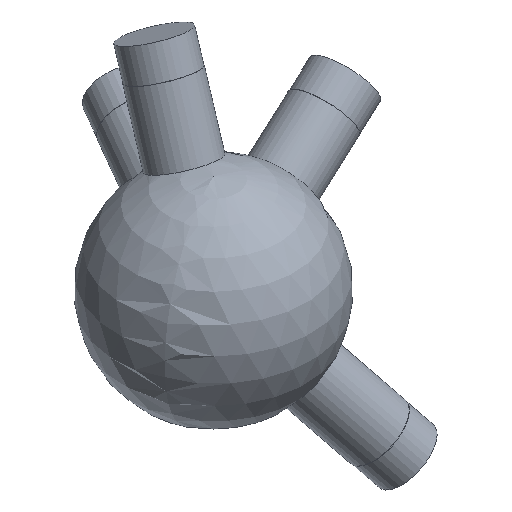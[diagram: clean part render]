
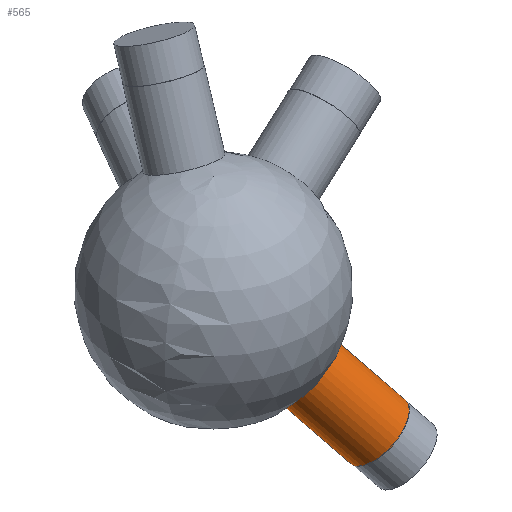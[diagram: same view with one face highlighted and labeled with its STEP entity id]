
A CAD part, isometric view. The second image highlights one B-rep face of the part: STEP entity #565.
In plain terms, the highlighted cylindrical face has radius 6 mm (diameter 12 mm), a full revolution.
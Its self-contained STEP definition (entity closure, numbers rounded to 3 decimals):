
#33 = SPHERICAL_SURFACE('',#34,20.);
#34 = AXIS2_PLACEMENT_3D('',#35,#36,#37);
#35 = CARTESIAN_POINT('',(0.,0.,0.));
#36 = DIRECTION('',(0.,0.,1.));
#37 = DIRECTION('',(1.,0.,-0.));
#204 = EDGE_CURVE('',#205,#205,#207,.T.);
#205 = VERTEX_POINT('',#206);
#206 = CARTESIAN_POINT('',(4.779,-8.316,
    -17.55));
#207 = SURFACE_CURVE('',#208,(#213,#289),.PCURVE_S1.);
#208 = CIRCLE('',#209,6.);
#209 = AXIS2_PLACEMENT_3D('',#210,#211,#212);
#210 = CARTESIAN_POINT('',(9.725,-8.316,
    -14.152));
#211 = DIRECTION('',(0.51,-0.436,-0.742));
#212 = DIRECTION('',(0.824,0.,0.566));
#213 = PCURVE('',#33,#214);
#214 = DEFINITIONAL_REPRESENTATION('',(#215),#288);
#215 = B_SPLINE_CURVE_WITH_KNOTS('',8,(#216,#217,#218,#219,#220,#221,
    #222,#223,#224,#225,#226,#227,#228,#229,#230,#231,#232,#233,#234,
    #235,#236,#237,#238,#239,#240,#241,#242,#243,#244,#245,#246,#247,
    #248,#249,#250,#251,#252,#253,#254,#255,#256,#257,#258,#259,#260,
    #261,#262,#263,#264,#265,#266,#267,#268,#269,#270,#271,#272,#273,
    #274,#275,#276,#277,#278,#279,#280,#281,#282,#283,#284,#285,#286,
    #287),.UNSPECIFIED.,.T.,.F.,(9,7,7,7,7,7,7,7,7,7,9),(3.142,
    3.534,3.902,4.248,4.895,
    5.461,6.452,7.938,8.682,
    9.053,9.425),.UNSPECIFIED.);
#216 = CARTESIAN_POINT('',(5.234,-1.071));
#217 = CARTESIAN_POINT('',(5.254,-1.082));
#218 = CARTESIAN_POINT('',(5.277,-1.092));
#219 = CARTESIAN_POINT('',(5.302,-1.101));
#220 = CARTESIAN_POINT('',(5.328,-1.11));
#221 = CARTESIAN_POINT('',(5.357,-1.118));
#222 = CARTESIAN_POINT('',(5.388,-1.124));
#223 = CARTESIAN_POINT('',(5.42,-1.129));
#224 = CARTESIAN_POINT('',(5.485,-1.137));
#225 = CARTESIAN_POINT('',(5.518,-1.14));
#226 = CARTESIAN_POINT('',(5.551,-1.141));
#227 = CARTESIAN_POINT('',(5.584,-1.142));
#228 = CARTESIAN_POINT('',(5.617,-1.141));
#229 = CARTESIAN_POINT('',(5.65,-1.139));
#230 = CARTESIAN_POINT('',(5.682,-1.136));
#231 = CARTESIAN_POINT('',(5.742,-1.127));
#232 = CARTESIAN_POINT('',(5.77,-1.122));
#233 = CARTESIAN_POINT('',(5.797,-1.117));
#234 = CARTESIAN_POINT('',(5.822,-1.11));
#235 = CARTESIAN_POINT('',(5.846,-1.102));
#236 = CARTESIAN_POINT('',(5.868,-1.094));
#237 = CARTESIAN_POINT('',(5.888,-1.085));
#238 = CARTESIAN_POINT('',(5.942,-1.058));
#239 = CARTESIAN_POINT('',(5.971,-1.039));
#240 = CARTESIAN_POINT('',(5.995,-1.017));
#241 = CARTESIAN_POINT('',(6.012,-0.995));
#242 = CARTESIAN_POINT('',(6.025,-0.971));
#243 = CARTESIAN_POINT('',(6.034,-0.948));
#244 = CARTESIAN_POINT('',(6.038,-0.923));
#245 = CARTESIAN_POINT('',(6.04,-0.878));
#246 = CARTESIAN_POINT('',(6.038,-0.857));
#247 = CARTESIAN_POINT('',(6.034,-0.835));
#248 = CARTESIAN_POINT('',(6.028,-0.815));
#249 = CARTESIAN_POINT('',(6.02,-0.794));
#250 = CARTESIAN_POINT('',(6.01,-0.774));
#251 = CARTESIAN_POINT('',(5.998,-0.754));
#252 = CARTESIAN_POINT('',(5.962,-0.702));
#253 = CARTESIAN_POINT('',(5.935,-0.671));
#254 = CARTESIAN_POINT('',(5.903,-0.643));
#255 = CARTESIAN_POINT('',(5.869,-0.617));
#256 = CARTESIAN_POINT('',(5.833,-0.595));
#257 = CARTESIAN_POINT('',(5.794,-0.576));
#258 = CARTESIAN_POINT('',(5.753,-0.561));
#259 = CARTESIAN_POINT('',(5.65,-0.532));
#260 = CARTESIAN_POINT('',(5.585,-0.524));
#261 = CARTESIAN_POINT('',(5.519,-0.525));
#262 = CARTESIAN_POINT('',(5.454,-0.536));
#263 = CARTESIAN_POINT('',(5.391,-0.556));
#264 = CARTESIAN_POINT('',(5.332,-0.584));
#265 = CARTESIAN_POINT('',(5.278,-0.62));
#266 = CARTESIAN_POINT('',(5.209,-0.683));
#267 = CARTESIAN_POINT('',(5.187,-0.705));
#268 = CARTESIAN_POINT('',(5.168,-0.729));
#269 = CARTESIAN_POINT('',(5.151,-0.755));
#270 = CARTESIAN_POINT('',(5.137,-0.781));
#271 = CARTESIAN_POINT('',(5.125,-0.808));
#272 = CARTESIAN_POINT('',(5.118,-0.835));
#273 = CARTESIAN_POINT('',(5.112,-0.877));
#274 = CARTESIAN_POINT('',(5.111,-0.891));
#275 = CARTESIAN_POINT('',(5.111,-0.905));
#276 = CARTESIAN_POINT('',(5.113,-0.919));
#277 = CARTESIAN_POINT('',(5.115,-0.933));
#278 = CARTESIAN_POINT('',(5.119,-0.946));
#279 = CARTESIAN_POINT('',(5.125,-0.96));
#280 = CARTESIAN_POINT('',(5.138,-0.987));
#281 = CARTESIAN_POINT('',(5.147,-1.));
#282 = CARTESIAN_POINT('',(5.157,-1.013));
#283 = CARTESIAN_POINT('',(5.169,-1.025));
#284 = CARTESIAN_POINT('',(5.182,-1.037));
#285 = CARTESIAN_POINT('',(5.197,-1.049));
#286 = CARTESIAN_POINT('',(5.215,-1.06));
#287 = CARTESIAN_POINT('',(5.234,-1.071));
#288 = ( GEOMETRIC_REPRESENTATION_CONTEXT(2) 
PARAMETRIC_REPRESENTATION_CONTEXT() REPRESENTATION_CONTEXT('2D SPACE',''
  ) );
#289 = PCURVE('',#290,#295);
#290 = CYLINDRICAL_SURFACE('',#291,6.);
#291 = AXIS2_PLACEMENT_3D('',#292,#293,#294);
#292 = CARTESIAN_POINT('',(0.,0.,0.));
#293 = DIRECTION('',(0.51,-0.436,-0.742));
#294 = DIRECTION('',(-0.824,0.,-0.566
    ));
#295 = DEFINITIONAL_REPRESENTATION('',(#296),#300);
#296 = LINE('',#297,#298);
#297 = CARTESIAN_POINT('',(-3.142,19.079));
#298 = VECTOR('',#299,1.);
#299 = DIRECTION('',(1.,0.));
#300 = ( GEOMETRIC_REPRESENTATION_CONTEXT(2) 
PARAMETRIC_REPRESENTATION_CONTEXT() REPRESENTATION_CONTEXT('2D SPACE',''
  ) );
#565 = ADVANCED_FACE('',(#566),#290,.T.);
#566 = FACE_BOUND('',#567,.T.);
#567 = EDGE_LOOP('',(#568,#591,#618,#619));
#568 = ORIENTED_EDGE('',*,*,#569,.T.);
#569 = EDGE_CURVE('',#205,#570,#572,.T.);
#570 = VERTEX_POINT('',#571);
#571 = CARTESIAN_POINT('',(13.028,-15.369,
    -29.554));
#572 = SEAM_CURVE('',#573,(#577,#584),.PCURVE_S1.);
#573 = LINE('',#574,#575);
#574 = CARTESIAN_POINT('',(-4.945,0.,
    -3.398));
#575 = VECTOR('',#576,1.);
#576 = DIRECTION('',(0.51,-0.436,-0.742));
#577 = PCURVE('',#290,#578);
#578 = DEFINITIONAL_REPRESENTATION('',(#579),#583);
#579 = LINE('',#580,#581);
#580 = CARTESIAN_POINT('',(6.283,-0.));
#581 = VECTOR('',#582,1.);
#582 = DIRECTION('',(0.,1.));
#583 = ( GEOMETRIC_REPRESENTATION_CONTEXT(2) 
PARAMETRIC_REPRESENTATION_CONTEXT() REPRESENTATION_CONTEXT('2D SPACE',''
  ) );
#584 = PCURVE('',#290,#585);
#585 = DEFINITIONAL_REPRESENTATION('',(#586),#590);
#586 = LINE('',#587,#588);
#587 = CARTESIAN_POINT('',(0.,-0.));
#588 = VECTOR('',#589,1.);
#589 = DIRECTION('',(0.,1.));
#590 = ( GEOMETRIC_REPRESENTATION_CONTEXT(2) 
PARAMETRIC_REPRESENTATION_CONTEXT() REPRESENTATION_CONTEXT('2D SPACE',''
  ) );
#591 = ORIENTED_EDGE('',*,*,#592,.F.);
#592 = EDGE_CURVE('',#570,#570,#593,.T.);
#593 = SURFACE_CURVE('',#594,(#599,#606),.PCURVE_S1.);
#594 = CIRCLE('',#595,6.);
#595 = AXIS2_PLACEMENT_3D('',#596,#597,#598);
#596 = CARTESIAN_POINT('',(17.973,-15.369,
    -26.156));
#597 = DIRECTION('',(0.51,-0.436,-0.742));
#598 = DIRECTION('',(-0.824,0.,-0.566
    ));
#599 = PCURVE('',#290,#600);
#600 = DEFINITIONAL_REPRESENTATION('',(#601),#605);
#601 = LINE('',#602,#603);
#602 = CARTESIAN_POINT('',(0.,35.262));
#603 = VECTOR('',#604,1.);
#604 = DIRECTION('',(1.,0.));
#605 = ( GEOMETRIC_REPRESENTATION_CONTEXT(2) 
PARAMETRIC_REPRESENTATION_CONTEXT() REPRESENTATION_CONTEXT('2D SPACE',''
  ) );
#606 = PCURVE('',#607,#612);
#607 = PLANE('',#608);
#608 = AXIS2_PLACEMENT_3D('',#609,#610,#611);
#609 = CARTESIAN_POINT('',(17.973,-15.369,
    -26.156));
#610 = DIRECTION('',(0.51,-0.436,-0.742));
#611 = DIRECTION('',(-0.824,0.,-0.566
    ));
#612 = DEFINITIONAL_REPRESENTATION('',(#613),#617);
#613 = CIRCLE('',#614,6.);
#614 = AXIS2_PLACEMENT_2D('',#615,#616);
#615 = CARTESIAN_POINT('',(0.,0.));
#616 = DIRECTION('',(1.,0.));
#617 = ( GEOMETRIC_REPRESENTATION_CONTEXT(2) 
PARAMETRIC_REPRESENTATION_CONTEXT() REPRESENTATION_CONTEXT('2D SPACE',''
  ) );
#618 = ORIENTED_EDGE('',*,*,#569,.F.);
#619 = ORIENTED_EDGE('',*,*,#204,.T.);
